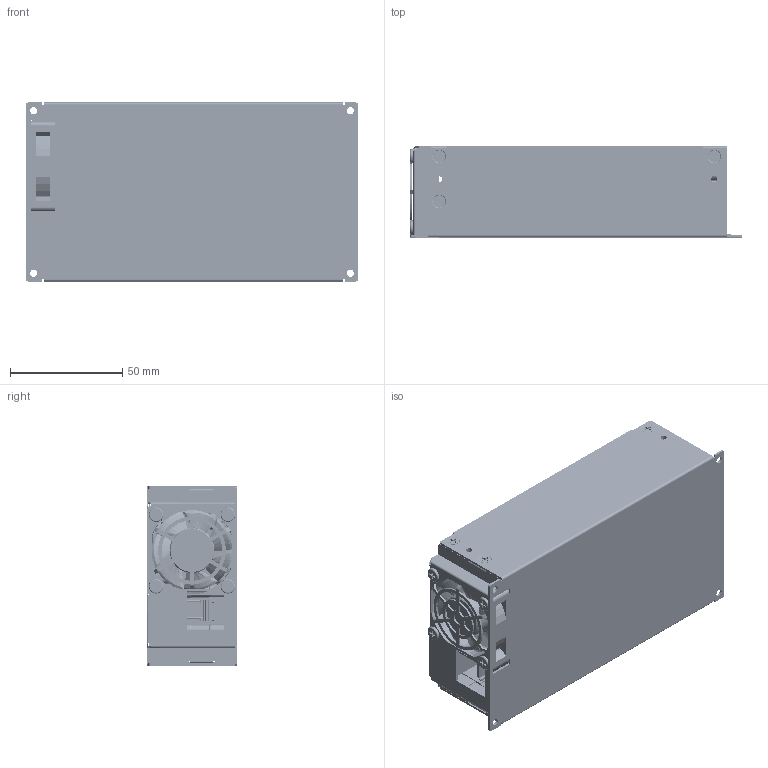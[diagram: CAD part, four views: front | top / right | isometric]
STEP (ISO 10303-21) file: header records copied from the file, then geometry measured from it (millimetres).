
FILE_DESCRIPTION (( 'STEP AP214' ), '1' );
FILE_NAME ('ECH450PS36-36-EF (CD 25-AUG-2023).STEP', '2023-08-29T09:25:15', ( '' ), ( '' ), 'SwSTEP 2.0', 'SolidWorks 2020', '' );
FILE_SCHEMA (( 'AUTOMOTIVE_DESIGN' ));
Length unit declared in the file: metre
Products named in the file (54): ECH450_3656-EF_HSK01; R3140104045_CN2; 11X6_5X5; ECH450_3656-EF_IN_FRPP; 3320030082_M3X8; 10X19_2; 3340030201_M3NUT; L2; HEADER_R36BA37_001; BSO_M3X4_5; 58C77-1025_Y1; TEMP; 830A6069HZ; F540_SMALL_PCB1; ECH450_3656-EF_IN_CASE_BOT_ASM; ECH450_3656-EF_CASE_IN_TOP; RIGHT_ANGLE; L301; 21014-0030_FG; ECH450_3656-EF_HSK02; P3X6; JST_B4P0_VH; PCB2; 4010_FAN; T201; LDPIN01; CAP_30X32MM; ECH450_3656-EF_ASM; 32_5X28X30_5; 16X9X9; 6_3X6; C21; 6_3X11; T1; 86K18N60M2_Q2Q3; ECH450PS36-36-EF (CD 25-AUG-2023); C19; I3_5X6TAPNI; ECH450_3656-EF-IN_CASE_BOT; GLASS_TYPE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
Assembly tree (95 placements, depth 4):
  ECH450PS36-36-EF (CD 25-AUG-2023)
    ECH450_3656-EF_IN_CASE_BOT_ASM
      ECH450_3656-EF-IN_CASE_BOT
      BSO_M3X4_5  x4
    ECH450_3656-EF_IN_FRPP
    ECH450_3656-EF_CASE_IN_TOP
    4010_FAN
    F3X4ISONI  x5
    I3_5X6TAPNI  x4
    ECH450_3656-EF_ASM
      ECH450_3656-EF_PCB
      ECH450_3656-EF_HSK01
        ECH450_3656-EF_HSK01
        LDPIN01  x2
      ECH450_3656-EF_HSK02
        ECH450_3656-EF_HSK02
        LDPIN01  x2
      JST_B3P2_VH
      21014-0030_FG
      CAP_30X32MM
      85D7BU8061_BD1
      86K18N60M2_Q2Q3  x5
      3320030082_M3X8  x6
      3340030201_M3NUT  x6
      830A6069HZ
      58C77-1025_Y1_BEADCORE
      58C77-1025_Y1  x5
      C21  x2
      C3
      C19
      11X6_5X5
      L2
      RIGHT_ANGLE
      16X9X9
      GLASS_TYPE  x2
      32_5X28X30_5
      R3140104045_CN2  x2
      10X19_2  x3
      8X16
      TEMP
      PCB2
      HEADER_R36BA37_001
      L301
      C30
      T201
      T1
      3PIN_PITCH2_0
      JST_B4P0_VH
      6_3X6
      5_2X10_5
      L201
      6_3X11  x4
      F540_SMALL_PCB1
      JST_V3P2_VH_RIGHT_ANGLE
    P3X6  x4
Bounding box: 148.2 x 40.6 x 80 mm (x, y, z)
Volume: 148105 mm3; surface area: 234420.2 mm2
Topology: 120 solids, 127 shells, 4456 faces, 10834 edges, 6660 vertices
Faces by surface type: plane 2134, bspline 1453, cylinder 672, cone 177, torus 20
Entity records: 222911 total; most frequent: CARTESIAN_POINT 146928, ORIENTED_EDGE 16424, DIRECTION 13511, EDGE_CURVE 8217, VERTEX_POINT 5006, AXIS2_PLACEMENT_3D 4639, VECTOR 4233, LINE 4233
